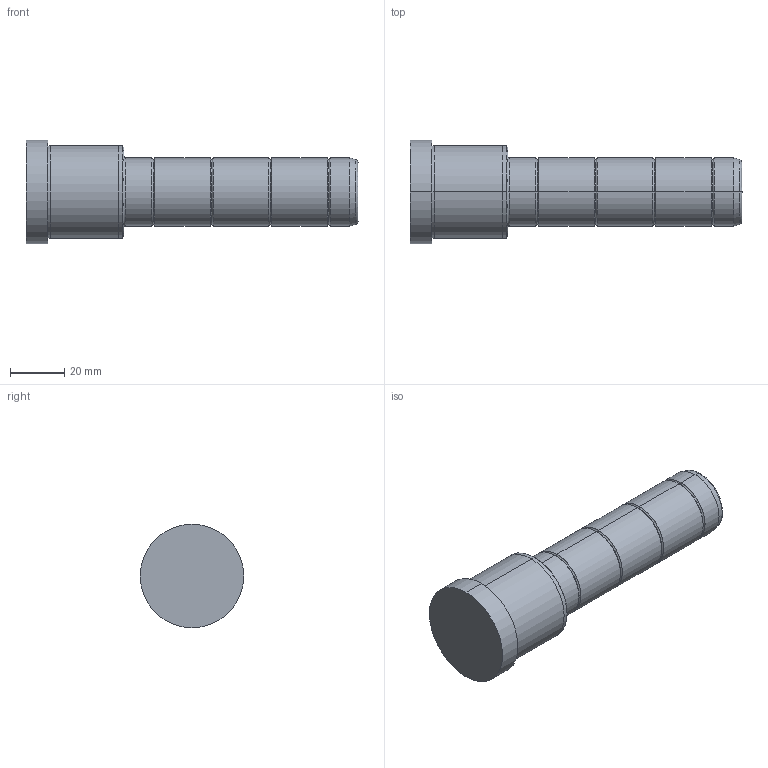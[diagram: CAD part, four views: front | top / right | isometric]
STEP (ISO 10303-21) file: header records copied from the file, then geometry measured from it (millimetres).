
FILE_DESCRIPTION( ( 'STEP AP203' ), '1' );
FILE_NAME( 'C:/Projects/D02 - 25x36x86.step', '2002-12-31T22:10:04', ( ' ' ), ( ' ' ), 'XStep 1.0', ' ', ' ' );
FILE_SCHEMA( ( 'CONFIG_CONTROL_DESIGN' ) );
Length unit declared in the file: metre
Products named in the file (1): 1
Bounding box: 122 x 38 x 38 mm (x, y, z)
Volume: 76505.4 mm3; surface area: 13013.1 mm2
Topology: 1 solids, 1 shells, 48 faces, 94 edges, 52 vertices
Faces by surface type: bspline 26, revolution 22
Entity records: 1523 total; most frequent: CARTESIAN_POINT 617, ORIENTED_EDGE 188, DIRECTION 150, EDGE_CURVE 94, AXIS2_PLACEMENT_3D 53, EDGE_LOOP 52, VERTEX_POINT 52, CIRCLE 52
